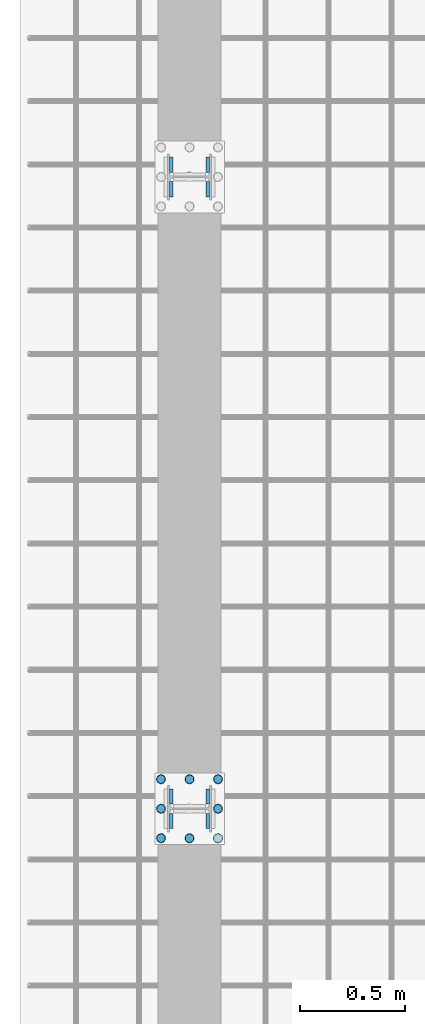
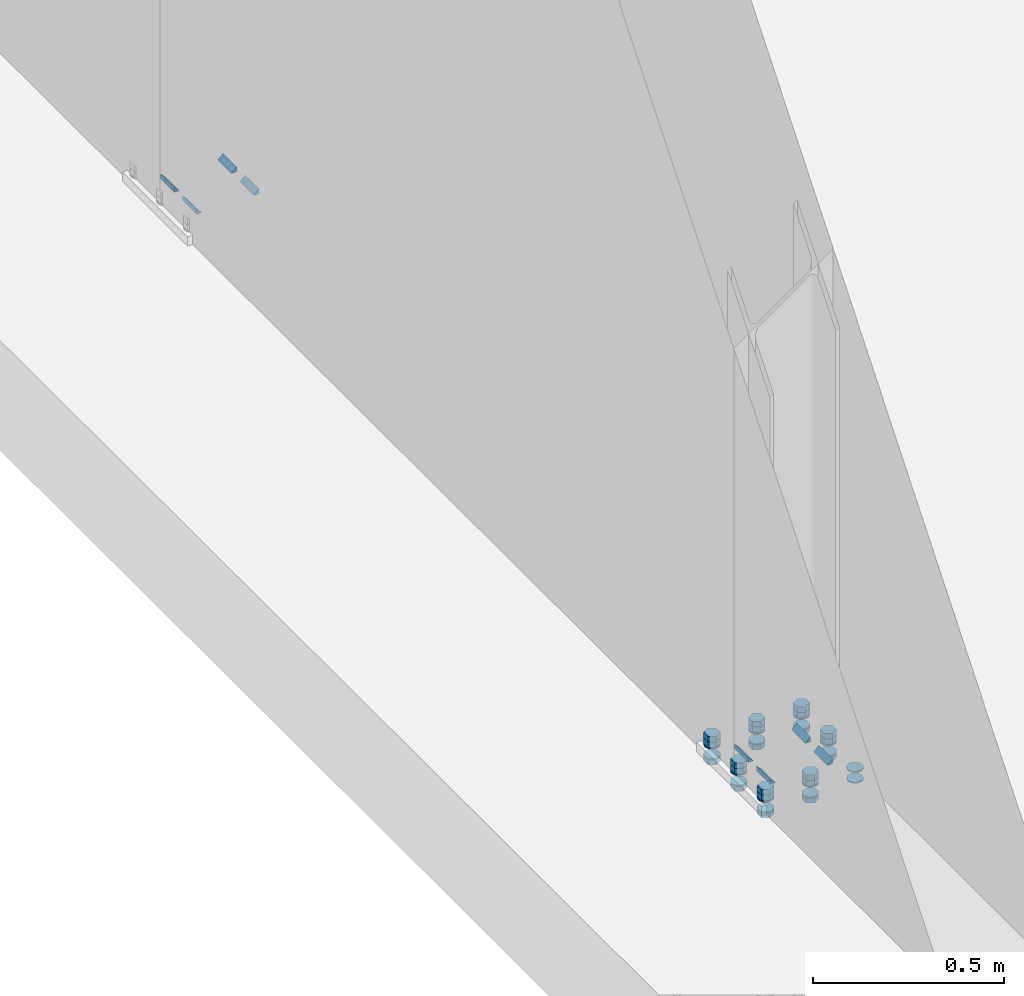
# One storey, part 14 of 29: 37 mechanical fasteners, 14 fasteners.
"""IFC4 building model written with IfcOpenShell, lengths in metres."""

from ifc_helpers import new_model, si_unit, frame, origin_with_axes, place, context, project, spatial, polyline, outline, extrude, type_object, element, save


model = new_model("IFC4")

# Units and contexts
model_context = context("Model", 3, precision=1e-05, world=origin_with_axes())
ifc_project = project(units=[si_unit("LENGTHUNIT", "METRE"), si_unit("AREAUNIT", "SQUARE_METRE"), si_unit("VOLUMEUNIT", "CUBIC_METRE"), si_unit("MASSUNIT", "GRAM", prefix="KILO"), si_unit("TIMEUNIT", "SECOND"), si_unit("PLANEANGLEUNIT", "RADIAN"), si_unit("SOLIDANGLEUNIT", "STERADIAN"), si_unit("THERMODYNAMICTEMPERATUREUNIT", "DEGREE_CELSIUS")], contexts=[model_context])

# Site, building, storey
placement_1 = place(None, origin_with_axes())
site = spatial("IfcSite", under=ifc_project, at=placement_1, Name="Italia", CompositionType="ELEMENT")
building = spatial("IfcBuilding", under=site, at=placement_1, Name="Capannone", CompositionType="ELEMENT")
storey = spatial("IfcBuildingStorey", under=building, at=placement_1, Name="Storey 0", CompositionType="ELEMENT", Elevation=0.0)

# Fasteners
fastener_type_1 = type_object("IfcFastenerType", Name="Collegamenti 0001_0101 0002_0102 0003_0103 0004_0104 0005_0105 0006_0106 0007_0107 0008_0108 0009_0109 0010_0110 0011_0111 0012_0112", PredefinedType="WELD")
placement_2 = place(placement_1, origin_with_axes())
fastener_1_placement = place(placement_2, origin_with_axes())
element("IfcFastener", 1, at=fastener_1_placement, inside=storey, type_object=fastener_type_1, Name="Collegamenti 0001_0101 0002_0102 0003_0103 0004_0104 0005_0105 0006_0106 0007_0107 0008_0108 0009_0109 0010_0110 0011_0111 0012_0112", context=model_context, shape_type="SweptSolid", body=[
    extrude(outline(polyline([(0.0, 0.0), (0.0156882, 0.0161734), (0.0156882, 0.0), (0.0, 0.0)])), frame((-0.0783618, 3.02145, 0.02995), z_axis=(0.0, 1.0, 0.0), x_axis=(-1.0, 0.0, 0.0)), (0.0, 0.0, 1.0), 0.0725999),
])
fastener_type_2 = type_object("IfcFastenerType", Name="Collegamenti 0001_0101 0002_0102 0003_0103 0004_0104 0005_0105 0006_0106 0007_0107 0008_0108 0009_0109 0010_0110 0011_0111 0012_0112", PredefinedType="WELD")
fastener_2_placement = place(placement_2, origin_with_axes())
element("IfcFastener", 2, at=fastener_2_placement, inside=storey, type_object=fastener_type_2, Name="Collegamenti 0001_0101 0002_0102 0003_0103 0004_0104 0005_0105 0006_0106 0007_0107 0008_0108 0009_0109 0010_0110 0011_0111 0012_0112", context=model_context, shape_type="SweptSolid", body=[
    extrude(outline(polyline([(0.0, 0.0), (0.0156882, 0.0161734), (0.0156882, 0.0), (0.0, 0.0)])), frame((0.0783618, 3.09405, 0.02995), z_axis=(0.0, -1.0, 0.0), x_axis=(1.0, 0.0, 0.0)), (0.0, 0.0, 1.0), 0.0725999),
])
fastener_type_3 = type_object("IfcFastenerType", Name="Collegamenti 0001_0101 0002_0102 0003_0103 0004_0104 0005_0105 0006_0106 0007_0107 0008_0108 0009_0109 0010_0110 0011_0111 0012_0112", PredefinedType="WELD")
fastener_3_placement = place(placement_2, origin_with_axes())
element("IfcFastener", 3, at=fastener_3_placement, inside=storey, type_object=fastener_type_3, Name="Collegamenti 0001_0101 0002_0102 0003_0103 0004_0104 0005_0105 0006_0106 0007_0107 0008_0108 0009_0109 0010_0110 0011_0111 0012_0112", context=model_context, shape_type="SweptSolid", body=[
    extrude(outline(polyline([(0.0, 0.0), (0.0156882, 0.0161734), (0.0156882, 0.0), (0.0, 0.0)])), frame((0.0783618, 2.97855, 0.02995), z_axis=(0.0, -1.0, 0.0), x_axis=(1.0, 0.0, 0.0)), (0.0, 0.0, 1.0), 0.0725999),
])
fastener_type_4 = type_object("IfcFastenerType", Name="Collegamenti 0001_0101 0002_0102 0003_0103 0004_0104 0005_0105 0006_0106 0007_0107 0008_0108 0009_0109 0010_0110 0011_0111 0012_0112", PredefinedType="WELD")
fastener_4_placement = place(placement_2, origin_with_axes())
element("IfcFastener", 4, at=fastener_4_placement, inside=storey, type_object=fastener_type_4, Name="Collegamenti 0001_0101 0002_0102 0003_0103 0004_0104 0005_0105 0006_0106 0007_0107 0008_0108 0009_0109 0010_0110 0011_0111 0012_0112", context=model_context, shape_type="SweptSolid", body=[
    extrude(outline(polyline([(0.0, 0.0), (0.0156882, 0.0161734), (0.0156882, 0.0), (0.0, 0.0)])), frame((-0.0783618, 2.90595, 0.02995), z_axis=(0.0, 1.0, 0.0), x_axis=(-1.0, 0.0, 0.0)), (0.0, 0.0, 1.0), 0.0725999),
])
fastener_type_5 = type_object("IfcFastenerType", Name="Collegamenti 0001_0101 0002_0102 0003_0103 0004_0104 0005_0105 0006_0106 0007_0107 0008_0108 0009_0109 0010_0110 0011_0111 0012_0112", PredefinedType="WELD")
fastener_5_placement = place(placement_2, origin_with_axes())
element("IfcFastener", 5, at=fastener_5_placement, inside=storey, type_object=fastener_type_5, Name="Collegamenti 0001_0101 0002_0102 0003_0103 0004_0104 0005_0105 0006_0106 0007_0107 0008_0108 0009_0109 0010_0110 0011_0111 0012_0112", context=model_context, shape_type="SweptSolid", body=[
    extrude(outline(polyline([(0.0, 0.0), (0.0156882, 0.0161734), (0.0156882, 0.0), (0.0, 0.0)])), frame((-0.0783618, 3.02145, 0.02995), z_axis=(0.0, 1.0, 0.0), x_axis=(-1.0, 0.0, 0.0)), (0.0, 0.0, 1.0), 0.0725999),
])
fastener_type_6 = type_object("IfcFastenerType", Name="Collegamenti 0001_0101 0002_0102 0003_0103 0004_0104 0005_0105 0006_0106 0007_0107 0008_0108 0009_0109 0010_0110 0011_0111 0012_0112", PredefinedType="WELD")
fastener_6_placement = place(placement_2, origin_with_axes())
element("IfcFastener", 6, at=fastener_6_placement, inside=storey, type_object=fastener_type_6, Name="Collegamenti 0001_0101 0002_0102 0003_0103 0004_0104 0005_0105 0006_0106 0007_0107 0008_0108 0009_0109 0010_0110 0011_0111 0012_0112", context=model_context, shape_type="SweptSolid", body=[
    extrude(outline(polyline([(0.0, 0.0), (0.0156882, 0.0161734), (0.0156882, 0.0), (0.0, 0.0)])), frame((0.0783618, 3.09405, 0.02995), z_axis=(0.0, -1.0, 0.0), x_axis=(1.0, 0.0, 0.0)), (0.0, 0.0, 1.0), 0.0725999),
])
fastener_type_7 = type_object("IfcFastenerType", Name="Collegamenti 0001_0101 0002_0102 0003_0103 0004_0104 0005_0105 0006_0106 0007_0107 0008_0108 0009_0109 0010_0110 0011_0111 0012_0112", PredefinedType="WELD")
fastener_7_placement = place(placement_2, origin_with_axes())
element("IfcFastener", 7, at=fastener_7_placement, inside=storey, type_object=fastener_type_7, Name="Collegamenti 0001_0101 0002_0102 0003_0103 0004_0104 0005_0105 0006_0106 0007_0107 0008_0108 0009_0109 0010_0110 0011_0111 0012_0112", context=model_context, shape_type="SweptSolid", body=[
    extrude(outline(polyline([(0.0, 0.0), (0.0156882, 0.0161734), (0.0156882, 0.0), (0.0, 0.0)])), frame((0.0783618, 2.97855, 0.02995), z_axis=(0.0, -1.0, 0.0), x_axis=(1.0, 0.0, 0.0)), (0.0, 0.0, 1.0), 0.0725999),
])
fastener_type_8 = type_object("IfcFastenerType", Name="Collegamenti 0001_0101 0002_0102 0003_0103 0004_0104 0005_0105 0006_0106 0007_0107 0008_0108 0009_0109 0010_0110 0011_0111 0012_0112", PredefinedType="WELD")
fastener_8_placement = place(placement_2, origin_with_axes())
element("IfcFastener", 8, at=fastener_8_placement, inside=storey, type_object=fastener_type_8, Name="Collegamenti 0001_0101 0002_0102 0003_0103 0004_0104 0005_0105 0006_0106 0007_0107 0008_0108 0009_0109 0010_0110 0011_0111 0012_0112", context=model_context, shape_type="SweptSolid", body=[
    extrude(outline(polyline([(0.0, 0.0), (0.0156882, 0.0161734), (0.0156882, 0.0), (0.0, 0.0)])), frame((-0.0783618, 2.90595, 0.02995), z_axis=(0.0, 1.0, 0.0), x_axis=(-1.0, 0.0, 0.0)), (0.0, 0.0, 1.0), 0.0725999),
])

# Mechanical fasteners
mechanical_fastener_type_1 = type_object("IfcMechanicalFastenerType", Name="Collegamenti 0001_0101 0002_0102 0003_0103 0004_0104 0005_0105 0006_0106 0007_0107 0008_0108 0009_0109 0010_0110 0011_0111 0012_0112", PredefinedType="BOLT")
mechanical_fastener_1_placement = place(placement_2, origin_with_axes())
element("IfcMechanicalFastener", 9, at=mechanical_fastener_1_placement, inside=storey, type_object=mechanical_fastener_type_1, Name="Collegamenti 0001_0101 0002_0102 0003_0103 0004_0104 0005_0105 0006_0106 0007_0107 0008_0108 0009_0109 0010_0110 0011_0111 0012_0112", NominalDiameter=0.044, context=model_context, shape_type="SweptSolid", body=[
    extrude(outline(polyline([(0.0, 0.0), (-0.000749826, -0.00569402), (-0.00294757, -0.011), (-0.00644374, -0.0155564), (-0.0110002, -0.0190526), (-0.0163062, -0.0212504), (-0.0220001, -0.022), (-0.027694, -0.0212504), (-0.033, -0.0190526), (-0.0375564, -0.0155564), (-0.0410526, -0.011), (-0.0432506, -0.00569402), (-0.0440001, 0.0), (-0.0432503, 0.00569402), (-0.0410526, 0.011), (-0.0375564, 0.0155564), (-0.033, 0.0190526), (-0.027694, 0.0212504), (-0.0220001, 0.022), (-0.0163062, 0.0212504), (-0.0110002, 0.0190526), (-0.00644374, 0.0155563), (-0.00294757, 0.011), (-0.000749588, 0.00569402), (0.0, 0.0)])), frame((0.135, 2.882, 0.03), z_axis=(0.0, 0.0, 1.0), x_axis=(0.0, 1.0, 0.0)), (0.0, 0.0, 1.0), 0.004),
])
mechanical_fastener_type_2 = type_object("IfcMechanicalFastenerType", Name="Collegamenti 0001_0101 0002_0102 0003_0103 0004_0104 0005_0105 0006_0106 0007_0107 0008_0108 0009_0109 0010_0110 0011_0111 0012_0112", PredefinedType="BOLT")
mechanical_fastener_2_placement = place(placement_2, origin_with_axes())
element("IfcMechanicalFastener", 10, at=mechanical_fastener_2_placement, inside=storey, type_object=mechanical_fastener_type_2, Name="Collegamenti 0001_0101 0002_0102 0003_0103 0004_0104 0005_0105 0006_0106 0007_0107 0008_0108 0009_0109 0010_0110 0011_0111 0012_0112", NominalDiameter=0.044, context=model_context, shape_type="SweptSolid", body=[
    extrude(outline(polyline([(0.0, 0.0), (-0.000749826, -0.00569402), (-0.00294757, -0.011), (-0.00644374, -0.0155564), (-0.0110002, -0.0190526), (-0.0163062, -0.0212504), (-0.0220001, -0.022), (-0.027694, -0.0212504), (-0.033, -0.0190526), (-0.0375564, -0.0155564), (-0.0410526, -0.011), (-0.0432506, -0.00569402), (-0.0440001, 0.0), (-0.0432503, 0.00569402), (-0.0410526, 0.011), (-0.0375564, 0.0155564), (-0.033, 0.0190526), (-0.027694, 0.0212504), (-0.0220001, 0.022), (-0.0163062, 0.0212504), (-0.0110002, 0.0190526), (-0.00644374, 0.0155563), (-0.00294757, 0.011), (-0.000749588, 0.00569402), (0.0, 0.0)])), frame((0.135, 2.882, -0.004), z_axis=(0.0, 0.0, 1.0), x_axis=(0.0, 1.0, 0.0)), (0.0, 0.0, 1.0), 0.004),
])
mechanical_fastener_type_3 = type_object("IfcMechanicalFastenerType", Name="Collegamenti 0001_0101 0002_0102 0003_0103 0004_0104 0005_0105 0006_0106 0007_0107 0008_0108 0009_0109 0010_0110 0011_0111 0012_0112", PredefinedType="BOLT")
mechanical_fastener_3_placement = place(placement_2, origin_with_axes())
element("IfcMechanicalFastener", 11, at=mechanical_fastener_3_placement, inside=storey, type_object=mechanical_fastener_type_3, Name="Collegamenti 0001_0101 0002_0102 0003_0103 0004_0104 0005_0105 0006_0106 0007_0107 0008_0108 0009_0109 0010_0110 0011_0111 0012_0112", NominalDiameter=0.0219998, context=model_context, shape_type="SweptSolid", body=[
    extrude(outline(polyline([(0.0, 0.0), (-0.0219998, 0.0), (-0.033, 0.0190526), (-0.0219998, 0.0381051), (0.0, 0.0381051), (0.0110002, 0.0190526), (0.0, 0.0)])), frame((0.154053, 3.011, 0.034), z_axis=(0.0, 0.0, 1.0), x_axis=(0.0, 1.0, 0.0)), (0.0, 0.0, 1.0), 0.0176),
])
mechanical_fastener_type_4 = type_object("IfcMechanicalFastenerType", Name="Collegamenti 0001_0101 0002_0102 0003_0103 0004_0104 0005_0105 0006_0106 0007_0107 0008_0108 0009_0109 0010_0110 0011_0111 0012_0112", PredefinedType="BOLT")
mechanical_fastener_4_placement = place(placement_2, origin_with_axes())
element("IfcMechanicalFastener", 12, at=mechanical_fastener_4_placement, inside=storey, type_object=mechanical_fastener_type_4, Name="Collegamenti 0001_0101 0002_0102 0003_0103 0004_0104 0005_0105 0006_0106 0007_0107 0008_0108 0009_0109 0010_0110 0011_0111 0012_0112", NominalDiameter=0.0219998, context=model_context, shape_type="SweptSolid", body=[
    extrude(outline(polyline([(0.0, 0.0), (-0.0219998, 0.0), (-0.033, 0.0190526), (-0.0219998, 0.0381051), (0.0, 0.0381051), (0.0110002, 0.0190526), (0.0, 0.0)])), frame((0.154053, 3.011, 0.0516), z_axis=(0.0, 0.0, 1.0), x_axis=(0.0, 1.0, 0.0)), (0.0, 0.0, 1.0), 0.0176),
])
mechanical_fastener_type_5 = type_object("IfcMechanicalFastenerType", Name="Collegamenti 0001_0101 0002_0102 0003_0103 0004_0104 0005_0105 0006_0106 0007_0107 0008_0108 0009_0109 0010_0110 0011_0111 0012_0112", PredefinedType="BOLT")
mechanical_fastener_5_placement = place(placement_2, origin_with_axes())
element("IfcMechanicalFastener", 13, at=mechanical_fastener_5_placement, inside=storey, type_object=mechanical_fastener_type_5, Name="Collegamenti 0001_0101 0002_0102 0003_0103 0004_0104 0005_0105 0006_0106 0007_0107 0008_0108 0009_0109 0010_0110 0011_0111 0012_0112", NominalDiameter=0.0219998, context=model_context, shape_type="SweptSolid", body=[
    extrude(outline(polyline([(0.0, 0.0), (-0.0219998, 0.0), (-0.033, 0.0190526), (-0.0219998, 0.0381051), (0.0, 0.0381051), (0.0110002, 0.0190526), (0.0, 0.0)])), frame((0.154053, 3.011, -0.0216), z_axis=(0.0, 0.0, 1.0), x_axis=(0.0, 1.0, 0.0)), (0.0, 0.0, 1.0), 0.0176),
])
mechanical_fastener_type_6 = type_object("IfcMechanicalFastenerType", Name="Collegamenti 0001_0101 0002_0102 0003_0103 0004_0104 0005_0105 0006_0106 0007_0107 0008_0108 0009_0109 0010_0110 0011_0111 0012_0112", PredefinedType="BOLT")
mechanical_fastener_6_placement = place(placement_2, origin_with_axes())
element("IfcMechanicalFastener", 14, at=mechanical_fastener_6_placement, inside=storey, type_object=mechanical_fastener_type_6, Name="Collegamenti 0001_0101 0002_0102 0003_0103 0004_0104 0005_0105 0006_0106 0007_0107 0008_0108 0009_0109 0010_0110 0011_0111 0012_0112", NominalDiameter=0.044, context=model_context, shape_type="SweptSolid", body=[
    extrude(outline(polyline([(0.0, 0.0), (-0.000749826, -0.00569402), (-0.00294757, -0.011), (-0.00644374, -0.0155564), (-0.0110002, -0.0190526), (-0.0163062, -0.0212504), (-0.0220001, -0.022), (-0.027694, -0.0212504), (-0.033, -0.0190526), (-0.0375564, -0.0155564), (-0.0410526, -0.011), (-0.0432506, -0.00569402), (-0.0440001, 0.0), (-0.0432503, 0.00569402), (-0.0410526, 0.011), (-0.0375564, 0.0155564), (-0.033, 0.0190526), (-0.027694, 0.0212504), (-0.0220001, 0.022), (-0.0163062, 0.0212504), (-0.0110002, 0.0190526), (-0.00644374, 0.0155563), (-0.00294757, 0.011), (-0.000749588, 0.00569402), (0.0, 0.0)])), frame((0.135, 3.022, 0.03), z_axis=(0.0, 0.0, 1.0), x_axis=(0.0, 1.0, 0.0)), (0.0, 0.0, 1.0), 0.004),
])
mechanical_fastener_type_7 = type_object("IfcMechanicalFastenerType", Name="Collegamenti 0001_0101 0002_0102 0003_0103 0004_0104 0005_0105 0006_0106 0007_0107 0008_0108 0009_0109 0010_0110 0011_0111 0012_0112", PredefinedType="BOLT")
mechanical_fastener_7_placement = place(placement_2, origin_with_axes())
element("IfcMechanicalFastener", 15, at=mechanical_fastener_7_placement, inside=storey, type_object=mechanical_fastener_type_7, Name="Collegamenti 0001_0101 0002_0102 0003_0103 0004_0104 0005_0105 0006_0106 0007_0107 0008_0108 0009_0109 0010_0110 0011_0111 0012_0112", NominalDiameter=0.044, context=model_context, shape_type="SweptSolid", body=[
    extrude(outline(polyline([(0.0, 0.0), (-0.000749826, -0.00569402), (-0.00294757, -0.011), (-0.00644374, -0.0155564), (-0.0110002, -0.0190526), (-0.0163062, -0.0212504), (-0.0220001, -0.022), (-0.027694, -0.0212504), (-0.033, -0.0190526), (-0.0375564, -0.0155564), (-0.0410526, -0.011), (-0.0432506, -0.00569402), (-0.0440001, 0.0), (-0.0432503, 0.00569402), (-0.0410526, 0.011), (-0.0375564, 0.0155564), (-0.033, 0.0190526), (-0.027694, 0.0212504), (-0.0220001, 0.022), (-0.0163062, 0.0212504), (-0.0110002, 0.0190526), (-0.00644374, 0.0155563), (-0.00294757, 0.011), (-0.000749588, 0.00569402), (0.0, 0.0)])), frame((0.135, 3.022, -0.004), z_axis=(0.0, 0.0, 1.0), x_axis=(0.0, 1.0, 0.0)), (0.0, 0.0, 1.0), 0.004),
])
mechanical_fastener_type_8 = type_object("IfcMechanicalFastenerType", Name="Collegamenti 0001_0101 0002_0102 0003_0103 0004_0104 0005_0105 0006_0106 0007_0107 0008_0108 0009_0109 0010_0110 0011_0111 0012_0112", PredefinedType="BOLT")
mechanical_fastener_8_placement = place(placement_2, origin_with_axes())
element("IfcMechanicalFastener", 16, at=mechanical_fastener_8_placement, inside=storey, type_object=mechanical_fastener_type_8, Name="Collegamenti 0001_0101 0002_0102 0003_0103 0004_0104 0005_0105 0006_0106 0007_0107 0008_0108 0009_0109 0010_0110 0011_0111 0012_0112", NominalDiameter=0.022, context=model_context, shape_type="SweptSolid", body=[
    extrude(outline(polyline([(0.0, 0.0), (-0.0220001, 0.0), (-0.033, 0.0190526), (-0.0220001, 0.0381051), (0.0, 0.0381051), (0.0109999, 0.0190526), (0.0, 0.0)])), frame((0.154053, 3.151, 0.034), z_axis=(0.0, 0.0, 1.0), x_axis=(0.0, 1.0, 0.0)), (0.0, 0.0, 1.0), 0.0176),
])
mechanical_fastener_type_9 = type_object("IfcMechanicalFastenerType", Name="Collegamenti 0001_0101 0002_0102 0003_0103 0004_0104 0005_0105 0006_0106 0007_0107 0008_0108 0009_0109 0010_0110 0011_0111 0012_0112", PredefinedType="BOLT")
mechanical_fastener_9_placement = place(placement_2, origin_with_axes())
element("IfcMechanicalFastener", 17, at=mechanical_fastener_9_placement, inside=storey, type_object=mechanical_fastener_type_9, Name="Collegamenti 0001_0101 0002_0102 0003_0103 0004_0104 0005_0105 0006_0106 0007_0107 0008_0108 0009_0109 0010_0110 0011_0111 0012_0112", NominalDiameter=0.022, context=model_context, shape_type="SweptSolid", body=[
    extrude(outline(polyline([(0.0, 0.0), (-0.0220001, 0.0), (-0.033, 0.0190526), (-0.0220001, 0.0381051), (0.0, 0.0381051), (0.0109999, 0.0190526), (0.0, 0.0)])), frame((0.154053, 3.151, 0.0516), z_axis=(0.0, 0.0, 1.0), x_axis=(0.0, 1.0, 0.0)), (0.0, 0.0, 1.0), 0.0176),
])
mechanical_fastener_type_10 = type_object("IfcMechanicalFastenerType", Name="Collegamenti 0001_0101 0002_0102 0003_0103 0004_0104 0005_0105 0006_0106 0007_0107 0008_0108 0009_0109 0010_0110 0011_0111 0012_0112", PredefinedType="BOLT")
mechanical_fastener_10_placement = place(placement_2, origin_with_axes())
element("IfcMechanicalFastener", 18, at=mechanical_fastener_10_placement, inside=storey, type_object=mechanical_fastener_type_10, Name="Collegamenti 0001_0101 0002_0102 0003_0103 0004_0104 0005_0105 0006_0106 0007_0107 0008_0108 0009_0109 0010_0110 0011_0111 0012_0112", NominalDiameter=0.022, context=model_context, shape_type="SweptSolid", body=[
    extrude(outline(polyline([(0.0, 0.0), (-0.0220001, 0.0), (-0.033, 0.0190526), (-0.0220001, 0.0381051), (0.0, 0.0381051), (0.0109999, 0.0190526), (0.0, 0.0)])), frame((0.154053, 3.151, -0.0216), z_axis=(0.0, 0.0, 1.0), x_axis=(0.0, 1.0, 0.0)), (0.0, 0.0, 1.0), 0.0176),
])
mechanical_fastener_type_11 = type_object("IfcMechanicalFastenerType", Name="Collegamenti 0001_0101 0002_0102 0003_0103 0004_0104 0005_0105 0006_0106 0007_0107 0008_0108 0009_0109 0010_0110 0011_0111 0012_0112", PredefinedType="BOLT")
mechanical_fastener_11_placement = place(placement_2, origin_with_axes())
element("IfcMechanicalFastener", 19, at=mechanical_fastener_11_placement, inside=storey, type_object=mechanical_fastener_type_11, Name="Collegamenti 0001_0101 0002_0102 0003_0103 0004_0104 0005_0105 0006_0106 0007_0107 0008_0108 0009_0109 0010_0110 0011_0111 0012_0112", NominalDiameter=0.044, context=model_context, shape_type="SweptSolid", body=[
    extrude(outline(polyline([(0.0, 0.0), (-0.000749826, -0.00569402), (-0.00294757, -0.011), (-0.00644374, -0.0155564), (-0.0110002, -0.0190526), (-0.0163062, -0.0212504), (-0.0220001, -0.022), (-0.027694, -0.0212504), (-0.033, -0.0190526), (-0.0375564, -0.0155564), (-0.0410526, -0.011), (-0.0432506, -0.00569402), (-0.0440001, 0.0), (-0.0432503, 0.00569402), (-0.0410526, 0.011), (-0.0375564, 0.0155564), (-0.033, 0.0190526), (-0.027694, 0.0212504), (-0.0220001, 0.022), (-0.0163062, 0.0212504), (-0.0110002, 0.0190526), (-0.00644374, 0.0155563), (-0.00294757, 0.011), (-0.000749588, 0.00569402), (0.0, 0.0)])), frame((0.135, 3.162, 0.03), z_axis=(0.0, 0.0, 1.0), x_axis=(0.0, 1.0, 0.0)), (0.0, 0.0, 1.0), 0.004),
])
mechanical_fastener_type_12 = type_object("IfcMechanicalFastenerType", Name="Collegamenti 0001_0101 0002_0102 0003_0103 0004_0104 0005_0105 0006_0106 0007_0107 0008_0108 0009_0109 0010_0110 0011_0111 0012_0112", PredefinedType="BOLT")
mechanical_fastener_12_placement = place(placement_2, origin_with_axes())
element("IfcMechanicalFastener", 20, at=mechanical_fastener_12_placement, inside=storey, type_object=mechanical_fastener_type_12, Name="Collegamenti 0001_0101 0002_0102 0003_0103 0004_0104 0005_0105 0006_0106 0007_0107 0008_0108 0009_0109 0010_0110 0011_0111 0012_0112", NominalDiameter=0.044, context=model_context, shape_type="SweptSolid", body=[
    extrude(outline(polyline([(0.0, 0.0), (-0.000749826, -0.00569402), (-0.00294757, -0.011), (-0.00644374, -0.0155564), (-0.0110002, -0.0190526), (-0.0163062, -0.0212504), (-0.0220001, -0.022), (-0.027694, -0.0212504), (-0.033, -0.0190526), (-0.0375564, -0.0155564), (-0.0410526, -0.011), (-0.0432506, -0.00569402), (-0.0440001, 0.0), (-0.0432503, 0.00569402), (-0.0410526, 0.011), (-0.0375564, 0.0155564), (-0.033, 0.0190526), (-0.027694, 0.0212504), (-0.0220001, 0.022), (-0.0163062, 0.0212504), (-0.0110002, 0.0190526), (-0.00644374, 0.0155563), (-0.00294757, 0.011), (-0.000749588, 0.00569402), (0.0, 0.0)])), frame((0.135, 3.162, -0.004), z_axis=(0.0, 0.0, 1.0), x_axis=(0.0, 1.0, 0.0)), (0.0, 0.0, 1.0), 0.004),
])
mechanical_fastener_type_13 = type_object("IfcMechanicalFastenerType", Name="Collegamenti 0001_0101 0002_0102 0003_0103 0004_0104 0005_0105 0006_0106 0007_0107 0008_0108 0009_0109 0010_0110 0011_0111 0012_0112", PredefinedType="BOLT")
mechanical_fastener_13_placement = place(placement_2, origin_with_axes())
element("IfcMechanicalFastener", 21, at=mechanical_fastener_13_placement, inside=storey, type_object=mechanical_fastener_type_13, Name="Collegamenti 0001_0101 0002_0102 0003_0103 0004_0104 0005_0105 0006_0106 0007_0107 0008_0108 0009_0109 0010_0110 0011_0111 0012_0112", NominalDiameter=0.022, context=model_context, shape_type="SweptSolid", body=[
    extrude(outline(polyline([(0.0, 0.0), (-0.0220001, 0.0), (-0.033, 0.0190526), (-0.0220001, 0.0381051), (0.0, 0.0381051), (0.0109999, 0.0190526), (0.0, 0.0)])), frame((0.0190526, 2.871, 0.034), z_axis=(0.0, 0.0, 1.0), x_axis=(0.0, 1.0, 0.0)), (0.0, 0.0, 1.0), 0.0176),
])
mechanical_fastener_type_14 = type_object("IfcMechanicalFastenerType", Name="Collegamenti 0001_0101 0002_0102 0003_0103 0004_0104 0005_0105 0006_0106 0007_0107 0008_0108 0009_0109 0010_0110 0011_0111 0012_0112", PredefinedType="BOLT")
mechanical_fastener_14_placement = place(placement_2, origin_with_axes())
element("IfcMechanicalFastener", 22, at=mechanical_fastener_14_placement, inside=storey, type_object=mechanical_fastener_type_14, Name="Collegamenti 0001_0101 0002_0102 0003_0103 0004_0104 0005_0105 0006_0106 0007_0107 0008_0108 0009_0109 0010_0110 0011_0111 0012_0112", NominalDiameter=0.022, context=model_context, shape_type="SweptSolid", body=[
    extrude(outline(polyline([(0.0, 0.0), (-0.0220001, 0.0), (-0.033, 0.0190526), (-0.0220001, 0.0381051), (0.0, 0.0381051), (0.0109999, 0.0190526), (0.0, 0.0)])), frame((0.0190526, 2.871, 0.0516), z_axis=(0.0, 0.0, 1.0), x_axis=(0.0, 1.0, 0.0)), (0.0, 0.0, 1.0), 0.0176),
])
mechanical_fastener_type_15 = type_object("IfcMechanicalFastenerType", Name="Collegamenti 0001_0101 0002_0102 0003_0103 0004_0104 0005_0105 0006_0106 0007_0107 0008_0108 0009_0109 0010_0110 0011_0111 0012_0112", PredefinedType="BOLT")
mechanical_fastener_15_placement = place(placement_2, origin_with_axes())
element("IfcMechanicalFastener", 23, at=mechanical_fastener_15_placement, inside=storey, type_object=mechanical_fastener_type_15, Name="Collegamenti 0001_0101 0002_0102 0003_0103 0004_0104 0005_0105 0006_0106 0007_0107 0008_0108 0009_0109 0010_0110 0011_0111 0012_0112", NominalDiameter=0.022, context=model_context, shape_type="SweptSolid", body=[
    extrude(outline(polyline([(0.0, 0.0), (-0.0220001, 0.0), (-0.033, 0.0190526), (-0.0220001, 0.0381051), (0.0, 0.0381051), (0.0109999, 0.0190526), (0.0, 0.0)])), frame((0.0190526, 2.871, -0.0216), z_axis=(0.0, 0.0, 1.0), x_axis=(0.0, 1.0, 0.0)), (0.0, 0.0, 1.0), 0.0176),
])
mechanical_fastener_type_16 = type_object("IfcMechanicalFastenerType", Name="Collegamenti 0001_0101 0002_0102 0003_0103 0004_0104 0005_0105 0006_0106 0007_0107 0008_0108 0009_0109 0010_0110 0011_0111 0012_0112", PredefinedType="BOLT")
mechanical_fastener_16_placement = place(placement_2, origin_with_axes())
element("IfcMechanicalFastener", 24, at=mechanical_fastener_16_placement, inside=storey, type_object=mechanical_fastener_type_16, Name="Collegamenti 0001_0101 0002_0102 0003_0103 0004_0104 0005_0105 0006_0106 0007_0107 0008_0108 0009_0109 0010_0110 0011_0111 0012_0112", NominalDiameter=0.044, context=model_context, shape_type="SweptSolid", body=[
    extrude(outline(polyline([(0.0, 0.0), (-0.000749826, -0.00569402), (-0.00294757, -0.011), (-0.00644374, -0.0155563), (-0.0110002, -0.0190526), (-0.0163062, -0.0212504), (-0.0220001, -0.022), (-0.027694, -0.0212504), (-0.033, -0.0190526), (-0.0375564, -0.0155563), (-0.0410526, -0.011), (-0.0432506, -0.00569402), (-0.0440001, 0.0), (-0.0432503, 0.00569402), (-0.0410526, 0.011), (-0.0375564, 0.0155564), (-0.033, 0.0190526), (-0.027694, 0.0212504), (-0.0220001, 0.022), (-0.0163062, 0.0212504), (-0.0110002, 0.0190526), (-0.00644374, 0.0155563), (-0.00294757, 0.011), (-0.000749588, 0.00569401), (0.0, 0.0)])), frame((0.0, 2.882, 0.03), z_axis=(0.0, 0.0, 1.0), x_axis=(0.0, 1.0, 0.0)), (0.0, 0.0, 1.0), 0.004),
])
mechanical_fastener_type_17 = type_object("IfcMechanicalFastenerType", Name="Collegamenti 0001_0101 0002_0102 0003_0103 0004_0104 0005_0105 0006_0106 0007_0107 0008_0108 0009_0109 0010_0110 0011_0111 0012_0112", PredefinedType="BOLT")
mechanical_fastener_17_placement = place(placement_2, origin_with_axes())
element("IfcMechanicalFastener", 25, at=mechanical_fastener_17_placement, inside=storey, type_object=mechanical_fastener_type_17, Name="Collegamenti 0001_0101 0002_0102 0003_0103 0004_0104 0005_0105 0006_0106 0007_0107 0008_0108 0009_0109 0010_0110 0011_0111 0012_0112", NominalDiameter=0.044, context=model_context, shape_type="SweptSolid", body=[
    extrude(outline(polyline([(0.0, 0.0), (-0.000749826, -0.00569402), (-0.00294757, -0.011), (-0.00644374, -0.0155563), (-0.0110002, -0.0190526), (-0.0163062, -0.0212504), (-0.0220001, -0.022), (-0.027694, -0.0212504), (-0.033, -0.0190526), (-0.0375564, -0.0155563), (-0.0410526, -0.011), (-0.0432506, -0.00569402), (-0.0440001, 0.0), (-0.0432503, 0.00569402), (-0.0410526, 0.011), (-0.0375564, 0.0155564), (-0.033, 0.0190526), (-0.027694, 0.0212504), (-0.0220001, 0.022), (-0.0163062, 0.0212504), (-0.0110002, 0.0190526), (-0.00644374, 0.0155563), (-0.00294757, 0.011), (-0.000749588, 0.00569401), (0.0, 0.0)])), frame((0.0, 2.882, -0.004), z_axis=(0.0, 0.0, 1.0), x_axis=(0.0, 1.0, 0.0)), (0.0, 0.0, 1.0), 0.004),
])
mechanical_fastener_type_18 = type_object("IfcMechanicalFastenerType", Name="Collegamenti 0001_0101 0002_0102 0003_0103 0004_0104 0005_0105 0006_0106 0007_0107 0008_0108 0009_0109 0010_0110 0011_0111 0012_0112", PredefinedType="BOLT")
mechanical_fastener_18_placement = place(placement_2, origin_with_axes())
element("IfcMechanicalFastener", 26, at=mechanical_fastener_18_placement, inside=storey, type_object=mechanical_fastener_type_18, Name="Collegamenti 0001_0101 0002_0102 0003_0103 0004_0104 0005_0105 0006_0106 0007_0107 0008_0108 0009_0109 0010_0110 0011_0111 0012_0112", NominalDiameter=0.022, context=model_context, shape_type="SweptSolid", body=[
    extrude(outline(polyline([(0.0, 0.0), (-0.0220001, 0.0), (-0.033, 0.0190526), (-0.0220001, 0.0381051), (0.0, 0.0381051), (0.0109999, 0.0190526), (0.0, 0.0)])), frame((0.0190526, 3.151, 0.034), z_axis=(0.0, 0.0, 1.0), x_axis=(0.0, 1.0, 0.0)), (0.0, 0.0, 1.0), 0.0176),
])
mechanical_fastener_type_19 = type_object("IfcMechanicalFastenerType", Name="Collegamenti 0001_0101 0002_0102 0003_0103 0004_0104 0005_0105 0006_0106 0007_0107 0008_0108 0009_0109 0010_0110 0011_0111 0012_0112", PredefinedType="BOLT")
mechanical_fastener_19_placement = place(placement_2, origin_with_axes())
element("IfcMechanicalFastener", 27, at=mechanical_fastener_19_placement, inside=storey, type_object=mechanical_fastener_type_19, Name="Collegamenti 0001_0101 0002_0102 0003_0103 0004_0104 0005_0105 0006_0106 0007_0107 0008_0108 0009_0109 0010_0110 0011_0111 0012_0112", NominalDiameter=0.022, context=model_context, shape_type="SweptSolid", body=[
    extrude(outline(polyline([(0.0, 0.0), (-0.0220001, 0.0), (-0.033, 0.0190526), (-0.0220001, 0.0381051), (0.0, 0.0381051), (0.0109999, 0.0190526), (0.0, 0.0)])), frame((0.0190526, 3.151, 0.0516), z_axis=(0.0, 0.0, 1.0), x_axis=(0.0, 1.0, 0.0)), (0.0, 0.0, 1.0), 0.0176),
])
mechanical_fastener_type_20 = type_object("IfcMechanicalFastenerType", Name="Collegamenti 0001_0101 0002_0102 0003_0103 0004_0104 0005_0105 0006_0106 0007_0107 0008_0108 0009_0109 0010_0110 0011_0111 0012_0112", PredefinedType="BOLT")
mechanical_fastener_20_placement = place(placement_2, origin_with_axes())
element("IfcMechanicalFastener", 28, at=mechanical_fastener_20_placement, inside=storey, type_object=mechanical_fastener_type_20, Name="Collegamenti 0001_0101 0002_0102 0003_0103 0004_0104 0005_0105 0006_0106 0007_0107 0008_0108 0009_0109 0010_0110 0011_0111 0012_0112", NominalDiameter=0.022, context=model_context, shape_type="SweptSolid", body=[
    extrude(outline(polyline([(0.0, 0.0), (-0.0220001, 0.0), (-0.033, 0.0190526), (-0.0220001, 0.0381051), (0.0, 0.0381051), (0.0109999, 0.0190526), (0.0, 0.0)])), frame((0.0190526, 3.151, -0.0216), z_axis=(0.0, 0.0, 1.0), x_axis=(0.0, 1.0, 0.0)), (0.0, 0.0, 1.0), 0.0176),
])
mechanical_fastener_type_21 = type_object("IfcMechanicalFastenerType", Name="Collegamenti 0001_0101 0002_0102 0003_0103 0004_0104 0005_0105 0006_0106 0007_0107 0008_0108 0009_0109 0010_0110 0011_0111 0012_0112", PredefinedType="BOLT")
mechanical_fastener_21_placement = place(placement_2, origin_with_axes())
element("IfcMechanicalFastener", 29, at=mechanical_fastener_21_placement, inside=storey, type_object=mechanical_fastener_type_21, Name="Collegamenti 0001_0101 0002_0102 0003_0103 0004_0104 0005_0105 0006_0106 0007_0107 0008_0108 0009_0109 0010_0110 0011_0111 0012_0112", NominalDiameter=0.044, context=model_context, shape_type="SweptSolid", body=[
    extrude(outline(polyline([(0.0, 0.0), (-0.000749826, -0.00569402), (-0.00294757, -0.011), (-0.00644374, -0.0155563), (-0.0110002, -0.0190526), (-0.0163062, -0.0212504), (-0.0220001, -0.022), (-0.027694, -0.0212504), (-0.033, -0.0190526), (-0.0375564, -0.0155563), (-0.0410526, -0.011), (-0.0432506, -0.00569402), (-0.0440001, 0.0), (-0.0432503, 0.00569402), (-0.0410526, 0.011), (-0.0375564, 0.0155564), (-0.033, 0.0190526), (-0.027694, 0.0212504), (-0.0220001, 0.022), (-0.0163062, 0.0212504), (-0.0110002, 0.0190526), (-0.00644374, 0.0155563), (-0.00294757, 0.011), (-0.000749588, 0.00569401), (0.0, 0.0)])), frame((0.0, 3.162, 0.03), z_axis=(0.0, 0.0, 1.0), x_axis=(0.0, 1.0, 0.0)), (0.0, 0.0, 1.0), 0.004),
])
mechanical_fastener_type_22 = type_object("IfcMechanicalFastenerType", Name="Collegamenti 0001_0101 0002_0102 0003_0103 0004_0104 0005_0105 0006_0106 0007_0107 0008_0108 0009_0109 0010_0110 0011_0111 0012_0112", PredefinedType="BOLT")
mechanical_fastener_22_placement = place(placement_2, origin_with_axes())
element("IfcMechanicalFastener", 30, at=mechanical_fastener_22_placement, inside=storey, type_object=mechanical_fastener_type_22, Name="Collegamenti 0001_0101 0002_0102 0003_0103 0004_0104 0005_0105 0006_0106 0007_0107 0008_0108 0009_0109 0010_0110 0011_0111 0012_0112", NominalDiameter=0.044, context=model_context, shape_type="SweptSolid", body=[
    extrude(outline(polyline([(0.0, 0.0), (-0.000749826, -0.00569402), (-0.00294757, -0.011), (-0.00644374, -0.0155563), (-0.0110002, -0.0190526), (-0.0163062, -0.0212504), (-0.0220001, -0.022), (-0.027694, -0.0212504), (-0.033, -0.0190526), (-0.0375564, -0.0155563), (-0.0410526, -0.011), (-0.0432506, -0.00569402), (-0.0440001, 0.0), (-0.0432503, 0.00569402), (-0.0410526, 0.011), (-0.0375564, 0.0155564), (-0.033, 0.0190526), (-0.027694, 0.0212504), (-0.0220001, 0.022), (-0.0163062, 0.0212504), (-0.0110002, 0.0190526), (-0.00644374, 0.0155563), (-0.00294757, 0.011), (-0.000749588, 0.00569401), (0.0, 0.0)])), frame((0.0, 3.162, -0.004), z_axis=(0.0, 0.0, 1.0), x_axis=(0.0, 1.0, 0.0)), (0.0, 0.0, 1.0), 0.004),
])
mechanical_fastener_type_23 = type_object("IfcMechanicalFastenerType", Name="Collegamenti 0001_0101 0002_0102 0003_0103 0004_0104 0005_0105 0006_0106 0007_0107 0008_0108 0009_0109 0010_0110 0011_0111 0012_0112", PredefinedType="BOLT")
mechanical_fastener_23_placement = place(placement_2, origin_with_axes())
element("IfcMechanicalFastener", 31, at=mechanical_fastener_23_placement, inside=storey, type_object=mechanical_fastener_type_23, Name="Collegamenti 0001_0101 0002_0102 0003_0103 0004_0104 0005_0105 0006_0106 0007_0107 0008_0108 0009_0109 0010_0110 0011_0111 0012_0112", NominalDiameter=0.022, context=model_context, shape_type="SweptSolid", body=[
    extrude(outline(polyline([(0.0, 0.0), (-0.0220001, 0.0), (-0.033, 0.0190526), (-0.0220001, 0.0381051), (0.0, 0.0381051), (0.0109999, 0.0190526), (0.0, 0.0)])), frame((-0.115947, 2.871, 0.034), z_axis=(0.0, 0.0, 1.0), x_axis=(0.0, 1.0, 0.0)), (0.0, 0.0, 1.0), 0.0176),
])
mechanical_fastener_type_24 = type_object("IfcMechanicalFastenerType", Name="Collegamenti 0001_0101 0002_0102 0003_0103 0004_0104 0005_0105 0006_0106 0007_0107 0008_0108 0009_0109 0010_0110 0011_0111 0012_0112", PredefinedType="BOLT")
mechanical_fastener_24_placement = place(placement_2, origin_with_axes())
element("IfcMechanicalFastener", 32, at=mechanical_fastener_24_placement, inside=storey, type_object=mechanical_fastener_type_24, Name="Collegamenti 0001_0101 0002_0102 0003_0103 0004_0104 0005_0105 0006_0106 0007_0107 0008_0108 0009_0109 0010_0110 0011_0111 0012_0112", NominalDiameter=0.022, context=model_context, shape_type="SweptSolid", body=[
    extrude(outline(polyline([(0.0, 0.0), (-0.0220001, 0.0), (-0.033, 0.0190526), (-0.0220001, 0.0381051), (0.0, 0.0381051), (0.0109999, 0.0190526), (0.0, 0.0)])), frame((-0.115947, 2.871, 0.0516), z_axis=(0.0, 0.0, 1.0), x_axis=(0.0, 1.0, 0.0)), (0.0, 0.0, 1.0), 0.0176),
])
mechanical_fastener_type_25 = type_object("IfcMechanicalFastenerType", Name="Collegamenti 0001_0101 0002_0102 0003_0103 0004_0104 0005_0105 0006_0106 0007_0107 0008_0108 0009_0109 0010_0110 0011_0111 0012_0112", PredefinedType="BOLT")
mechanical_fastener_25_placement = place(placement_2, origin_with_axes())
element("IfcMechanicalFastener", 33, at=mechanical_fastener_25_placement, inside=storey, type_object=mechanical_fastener_type_25, Name="Collegamenti 0001_0101 0002_0102 0003_0103 0004_0104 0005_0105 0006_0106 0007_0107 0008_0108 0009_0109 0010_0110 0011_0111 0012_0112", NominalDiameter=0.022, context=model_context, shape_type="SweptSolid", body=[
    extrude(outline(polyline([(0.0, 0.0), (-0.0220001, 0.0), (-0.033, 0.0190526), (-0.0220001, 0.0381051), (0.0, 0.0381051), (0.0109999, 0.0190526), (0.0, 0.0)])), frame((-0.115947, 2.871, -0.0216), z_axis=(0.0, 0.0, 1.0), x_axis=(0.0, 1.0, 0.0)), (0.0, 0.0, 1.0), 0.0176),
])
mechanical_fastener_type_26 = type_object("IfcMechanicalFastenerType", Name="Collegamenti 0001_0101 0002_0102 0003_0103 0004_0104 0005_0105 0006_0106 0007_0107 0008_0108 0009_0109 0010_0110 0011_0111 0012_0112", PredefinedType="BOLT")
mechanical_fastener_26_placement = place(placement_2, origin_with_axes())
element("IfcMechanicalFastener", 34, at=mechanical_fastener_26_placement, inside=storey, type_object=mechanical_fastener_type_26, Name="Collegamenti 0001_0101 0002_0102 0003_0103 0004_0104 0005_0105 0006_0106 0007_0107 0008_0108 0009_0109 0010_0110 0011_0111 0012_0112", NominalDiameter=0.044, context=model_context, shape_type="SweptSolid", body=[
    extrude(outline(polyline([(0.0, 0.0), (-0.000749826, -0.00569402), (-0.00294757, -0.011), (-0.00644374, -0.0155564), (-0.0110002, -0.0190526), (-0.0163062, -0.0212504), (-0.0220001, -0.022), (-0.027694, -0.0212504), (-0.033, -0.0190526), (-0.0375564, -0.0155564), (-0.0410526, -0.011), (-0.0432506, -0.00569402), (-0.0440001, 0.0), (-0.0432503, 0.00569402), (-0.0410526, 0.011), (-0.0375564, 0.0155564), (-0.033, 0.0190526), (-0.027694, 0.0212504), (-0.0220001, 0.022), (-0.0163062, 0.0212504), (-0.0110002, 0.0190526), (-0.00644374, 0.0155564), (-0.00294757, 0.011), (-0.000749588, 0.00569402), (0.0, 0.0)])), frame((-0.135, 2.882, 0.03), z_axis=(0.0, 0.0, 1.0), x_axis=(0.0, 1.0, 0.0)), (0.0, 0.0, 1.0), 0.004),
])
mechanical_fastener_type_27 = type_object("IfcMechanicalFastenerType", Name="Collegamenti 0001_0101 0002_0102 0003_0103 0004_0104 0005_0105 0006_0106 0007_0107 0008_0108 0009_0109 0010_0110 0011_0111 0012_0112", PredefinedType="BOLT")
mechanical_fastener_27_placement = place(placement_2, origin_with_axes())
element("IfcMechanicalFastener", 35, at=mechanical_fastener_27_placement, inside=storey, type_object=mechanical_fastener_type_27, Name="Collegamenti 0001_0101 0002_0102 0003_0103 0004_0104 0005_0105 0006_0106 0007_0107 0008_0108 0009_0109 0010_0110 0011_0111 0012_0112", NominalDiameter=0.044, context=model_context, shape_type="SweptSolid", body=[
    extrude(outline(polyline([(0.0, 0.0), (-0.000749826, -0.00569402), (-0.00294757, -0.011), (-0.00644374, -0.0155564), (-0.0110002, -0.0190526), (-0.0163062, -0.0212504), (-0.0220001, -0.022), (-0.027694, -0.0212504), (-0.033, -0.0190526), (-0.0375564, -0.0155564), (-0.0410526, -0.011), (-0.0432506, -0.00569402), (-0.0440001, 0.0), (-0.0432503, 0.00569402), (-0.0410526, 0.011), (-0.0375564, 0.0155564), (-0.033, 0.0190526), (-0.027694, 0.0212504), (-0.0220001, 0.022), (-0.0163062, 0.0212504), (-0.0110002, 0.0190526), (-0.00644374, 0.0155564), (-0.00294757, 0.011), (-0.000749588, 0.00569402), (0.0, 0.0)])), frame((-0.135, 2.882, -0.004), z_axis=(0.0, 0.0, 1.0), x_axis=(0.0, 1.0, 0.0)), (0.0, 0.0, 1.0), 0.004),
])
mechanical_fastener_type_28 = type_object("IfcMechanicalFastenerType", Name="Collegamenti 0001_0101 0002_0102 0003_0103 0004_0104 0005_0105 0006_0106 0007_0107 0008_0108 0009_0109 0010_0110 0011_0111 0012_0112", PredefinedType="BOLT")
mechanical_fastener_28_placement = place(placement_2, origin_with_axes())
element("IfcMechanicalFastener", 36, at=mechanical_fastener_28_placement, inside=storey, type_object=mechanical_fastener_type_28, Name="Collegamenti 0001_0101 0002_0102 0003_0103 0004_0104 0005_0105 0006_0106 0007_0107 0008_0108 0009_0109 0010_0110 0011_0111 0012_0112", NominalDiameter=0.0219998, context=model_context, shape_type="SweptSolid", body=[
    extrude(outline(polyline([(0.0, 0.0), (-0.0219998, 0.0), (-0.033, 0.0190526), (-0.0219998, 0.0381051), (0.0, 0.0381051), (0.0110002, 0.0190526), (0.0, 0.0)])), frame((-0.115947, 3.011, 0.034), z_axis=(0.0, 0.0, 1.0), x_axis=(0.0, 1.0, 0.0)), (0.0, 0.0, 1.0), 0.0176),
])
mechanical_fastener_type_29 = type_object("IfcMechanicalFastenerType", Name="Collegamenti 0001_0101 0002_0102 0003_0103 0004_0104 0005_0105 0006_0106 0007_0107 0008_0108 0009_0109 0010_0110 0011_0111 0012_0112", PredefinedType="BOLT")
mechanical_fastener_29_placement = place(placement_2, origin_with_axes())
element("IfcMechanicalFastener", 37, at=mechanical_fastener_29_placement, inside=storey, type_object=mechanical_fastener_type_29, Name="Collegamenti 0001_0101 0002_0102 0003_0103 0004_0104 0005_0105 0006_0106 0007_0107 0008_0108 0009_0109 0010_0110 0011_0111 0012_0112", NominalDiameter=0.0219998, context=model_context, shape_type="SweptSolid", body=[
    extrude(outline(polyline([(0.0, 0.0), (-0.0219998, 0.0), (-0.033, 0.0190526), (-0.0219998, 0.0381051), (0.0, 0.0381051), (0.0110002, 0.0190526), (0.0, 0.0)])), frame((-0.115947, 3.011, 0.0516), z_axis=(0.0, 0.0, 1.0), x_axis=(0.0, 1.0, 0.0)), (0.0, 0.0, 1.0), 0.0176),
])
mechanical_fastener_type_30 = type_object("IfcMechanicalFastenerType", Name="Collegamenti 0001_0101 0002_0102 0003_0103 0004_0104 0005_0105 0006_0106 0007_0107 0008_0108 0009_0109 0010_0110 0011_0111 0012_0112", PredefinedType="BOLT")
mechanical_fastener_30_placement = place(placement_2, origin_with_axes())
element("IfcMechanicalFastener", 38, at=mechanical_fastener_30_placement, inside=storey, type_object=mechanical_fastener_type_30, Name="Collegamenti 0001_0101 0002_0102 0003_0103 0004_0104 0005_0105 0006_0106 0007_0107 0008_0108 0009_0109 0010_0110 0011_0111 0012_0112", NominalDiameter=0.0219998, context=model_context, shape_type="SweptSolid", body=[
    extrude(outline(polyline([(0.0, 0.0), (-0.0219998, 0.0), (-0.033, 0.0190526), (-0.0219998, 0.0381051), (0.0, 0.0381051), (0.0110002, 0.0190526), (0.0, 0.0)])), frame((-0.115947, 3.011, -0.0216), z_axis=(0.0, 0.0, 1.0), x_axis=(0.0, 1.0, 0.0)), (0.0, 0.0, 1.0), 0.0176),
])
mechanical_fastener_type_31 = type_object("IfcMechanicalFastenerType", Name="Collegamenti 0001_0101 0002_0102 0003_0103 0004_0104 0005_0105 0006_0106 0007_0107 0008_0108 0009_0109 0010_0110 0011_0111 0012_0112", PredefinedType="BOLT")
mechanical_fastener_31_placement = place(placement_2, origin_with_axes())
element("IfcMechanicalFastener", 39, at=mechanical_fastener_31_placement, inside=storey, type_object=mechanical_fastener_type_31, Name="Collegamenti 0001_0101 0002_0102 0003_0103 0004_0104 0005_0105 0006_0106 0007_0107 0008_0108 0009_0109 0010_0110 0011_0111 0012_0112", NominalDiameter=0.044, context=model_context, shape_type="SweptSolid", body=[
    extrude(outline(polyline([(0.0, 0.0), (-0.000749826, -0.00569402), (-0.00294757, -0.011), (-0.00644374, -0.0155564), (-0.0110002, -0.0190526), (-0.0163062, -0.0212504), (-0.0220001, -0.022), (-0.027694, -0.0212504), (-0.033, -0.0190526), (-0.0375564, -0.0155564), (-0.0410526, -0.011), (-0.0432506, -0.00569402), (-0.0440001, 0.0), (-0.0432503, 0.00569402), (-0.0410526, 0.011), (-0.0375564, 0.0155564), (-0.033, 0.0190526), (-0.027694, 0.0212504), (-0.0220001, 0.022), (-0.0163062, 0.0212504), (-0.0110002, 0.0190526), (-0.00644374, 0.0155564), (-0.00294757, 0.011), (-0.000749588, 0.00569402), (0.0, 0.0)])), frame((-0.135, 3.022, 0.03), z_axis=(0.0, 0.0, 1.0), x_axis=(0.0, 1.0, 0.0)), (0.0, 0.0, 1.0), 0.004),
])
mechanical_fastener_type_32 = type_object("IfcMechanicalFastenerType", Name="Collegamenti 0001_0101 0002_0102 0003_0103 0004_0104 0005_0105 0006_0106 0007_0107 0008_0108 0009_0109 0010_0110 0011_0111 0012_0112", PredefinedType="BOLT")
mechanical_fastener_32_placement = place(placement_2, origin_with_axes())
element("IfcMechanicalFastener", 40, at=mechanical_fastener_32_placement, inside=storey, type_object=mechanical_fastener_type_32, Name="Collegamenti 0001_0101 0002_0102 0003_0103 0004_0104 0005_0105 0006_0106 0007_0107 0008_0108 0009_0109 0010_0110 0011_0111 0012_0112", NominalDiameter=0.044, context=model_context, shape_type="SweptSolid", body=[
    extrude(outline(polyline([(0.0, 0.0), (-0.000749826, -0.00569402), (-0.00294757, -0.011), (-0.00644374, -0.0155564), (-0.0110002, -0.0190526), (-0.0163062, -0.0212504), (-0.0220001, -0.022), (-0.027694, -0.0212504), (-0.033, -0.0190526), (-0.0375564, -0.0155564), (-0.0410526, -0.011), (-0.0432506, -0.00569402), (-0.0440001, 0.0), (-0.0432503, 0.00569402), (-0.0410526, 0.011), (-0.0375564, 0.0155564), (-0.033, 0.0190526), (-0.027694, 0.0212504), (-0.0220001, 0.022), (-0.0163062, 0.0212504), (-0.0110002, 0.0190526), (-0.00644374, 0.0155564), (-0.00294757, 0.011), (-0.000749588, 0.00569402), (0.0, 0.0)])), frame((-0.135, 3.022, -0.004), z_axis=(0.0, 0.0, 1.0), x_axis=(0.0, 1.0, 0.0)), (0.0, 0.0, 1.0), 0.004),
])
mechanical_fastener_type_33 = type_object("IfcMechanicalFastenerType", Name="Collegamenti 0001_0101 0002_0102 0003_0103 0004_0104 0005_0105 0006_0106 0007_0107 0008_0108 0009_0109 0010_0110 0011_0111 0012_0112", PredefinedType="BOLT")
mechanical_fastener_33_placement = place(placement_2, origin_with_axes())
element("IfcMechanicalFastener", 41, at=mechanical_fastener_33_placement, inside=storey, type_object=mechanical_fastener_type_33, Name="Collegamenti 0001_0101 0002_0102 0003_0103 0004_0104 0005_0105 0006_0106 0007_0107 0008_0108 0009_0109 0010_0110 0011_0111 0012_0112", NominalDiameter=0.022, context=model_context, shape_type="SweptSolid", body=[
    extrude(outline(polyline([(0.0, 0.0), (-0.0220001, 0.0), (-0.033, 0.0190526), (-0.0220001, 0.0381051), (0.0, 0.0381051), (0.0109999, 0.0190526), (0.0, 0.0)])), frame((-0.115947, 3.151, 0.034), z_axis=(0.0, 0.0, 1.0), x_axis=(0.0, 1.0, 0.0)), (0.0, 0.0, 1.0), 0.0176),
])
mechanical_fastener_type_34 = type_object("IfcMechanicalFastenerType", Name="Collegamenti 0001_0101 0002_0102 0003_0103 0004_0104 0005_0105 0006_0106 0007_0107 0008_0108 0009_0109 0010_0110 0011_0111 0012_0112", PredefinedType="BOLT")
mechanical_fastener_34_placement = place(placement_2, origin_with_axes())
element("IfcMechanicalFastener", 42, at=mechanical_fastener_34_placement, inside=storey, type_object=mechanical_fastener_type_34, Name="Collegamenti 0001_0101 0002_0102 0003_0103 0004_0104 0005_0105 0006_0106 0007_0107 0008_0108 0009_0109 0010_0110 0011_0111 0012_0112", NominalDiameter=0.022, context=model_context, shape_type="SweptSolid", body=[
    extrude(outline(polyline([(0.0, 0.0), (-0.0220001, 0.0), (-0.033, 0.0190526), (-0.0220001, 0.0381051), (0.0, 0.0381051), (0.0109999, 0.0190526), (0.0, 0.0)])), frame((-0.115947, 3.151, 0.0516), z_axis=(0.0, 0.0, 1.0), x_axis=(0.0, 1.0, 0.0)), (0.0, 0.0, 1.0), 0.0176),
])
mechanical_fastener_type_35 = type_object("IfcMechanicalFastenerType", Name="Collegamenti 0001_0101 0002_0102 0003_0103 0004_0104 0005_0105 0006_0106 0007_0107 0008_0108 0009_0109 0010_0110 0011_0111 0012_0112", PredefinedType="BOLT")
mechanical_fastener_35_placement = place(placement_2, origin_with_axes())
element("IfcMechanicalFastener", 43, at=mechanical_fastener_35_placement, inside=storey, type_object=mechanical_fastener_type_35, Name="Collegamenti 0001_0101 0002_0102 0003_0103 0004_0104 0005_0105 0006_0106 0007_0107 0008_0108 0009_0109 0010_0110 0011_0111 0012_0112", NominalDiameter=0.022, context=model_context, shape_type="SweptSolid", body=[
    extrude(outline(polyline([(0.0, 0.0), (-0.0220001, 0.0), (-0.033, 0.0190526), (-0.0220001, 0.0381051), (0.0, 0.0381051), (0.0109999, 0.0190526), (0.0, 0.0)])), frame((-0.115947, 3.151, -0.0216), z_axis=(0.0, 0.0, 1.0), x_axis=(0.0, 1.0, 0.0)), (0.0, 0.0, 1.0), 0.0176),
])
mechanical_fastener_type_36 = type_object("IfcMechanicalFastenerType", Name="Collegamenti 0001_0101 0002_0102 0003_0103 0004_0104 0005_0105 0006_0106 0007_0107 0008_0108 0009_0109 0010_0110 0011_0111 0012_0112", PredefinedType="BOLT")
mechanical_fastener_36_placement = place(placement_2, origin_with_axes())
element("IfcMechanicalFastener", 44, at=mechanical_fastener_36_placement, inside=storey, type_object=mechanical_fastener_type_36, Name="Collegamenti 0001_0101 0002_0102 0003_0103 0004_0104 0005_0105 0006_0106 0007_0107 0008_0108 0009_0109 0010_0110 0011_0111 0012_0112", NominalDiameter=0.044, context=model_context, shape_type="SweptSolid", body=[
    extrude(outline(polyline([(0.0, 0.0), (-0.000749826, -0.00569402), (-0.00294757, -0.011), (-0.00644374, -0.0155564), (-0.0110002, -0.0190526), (-0.0163062, -0.0212504), (-0.0220001, -0.022), (-0.027694, -0.0212504), (-0.033, -0.0190526), (-0.0375564, -0.0155564), (-0.0410526, -0.011), (-0.0432506, -0.00569402), (-0.0440001, 0.0), (-0.0432503, 0.00569402), (-0.0410526, 0.011), (-0.0375564, 0.0155564), (-0.033, 0.0190526), (-0.027694, 0.0212504), (-0.0220001, 0.022), (-0.0163062, 0.0212504), (-0.0110002, 0.0190526), (-0.00644374, 0.0155564), (-0.00294757, 0.011), (-0.000749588, 0.00569402), (0.0, 0.0)])), frame((-0.135, 3.162, 0.03), z_axis=(0.0, 0.0, 1.0), x_axis=(0.0, 1.0, 0.0)), (0.0, 0.0, 1.0), 0.004),
])
mechanical_fastener_type_37 = type_object("IfcMechanicalFastenerType", Name="Collegamenti 0001_0101 0002_0102 0003_0103 0004_0104 0005_0105 0006_0106 0007_0107 0008_0108 0009_0109 0010_0110 0011_0111 0012_0112", PredefinedType="BOLT")
mechanical_fastener_37_placement = place(placement_2, origin_with_axes())
element("IfcMechanicalFastener", 45, at=mechanical_fastener_37_placement, inside=storey, type_object=mechanical_fastener_type_37, Name="Collegamenti 0001_0101 0002_0102 0003_0103 0004_0104 0005_0105 0006_0106 0007_0107 0008_0108 0009_0109 0010_0110 0011_0111 0012_0112", NominalDiameter=0.044, context=model_context, shape_type="SweptSolid", body=[
    extrude(outline(polyline([(0.0, 0.0), (-0.000749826, -0.00569402), (-0.00294757, -0.011), (-0.00644374, -0.0155564), (-0.0110002, -0.0190526), (-0.0163062, -0.0212504), (-0.0220001, -0.022), (-0.027694, -0.0212504), (-0.033, -0.0190526), (-0.0375564, -0.0155564), (-0.0410526, -0.011), (-0.0432506, -0.00569402), (-0.0440001, 0.0), (-0.0432503, 0.00569402), (-0.0410526, 0.011), (-0.0375564, 0.0155564), (-0.033, 0.0190526), (-0.027694, 0.0212504), (-0.0220001, 0.022), (-0.0163062, 0.0212504), (-0.0110002, 0.0190526), (-0.00644374, 0.0155564), (-0.00294757, 0.011), (-0.000749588, 0.00569402), (0.0, 0.0)])), frame((-0.135, 3.162, -0.004), z_axis=(0.0, 0.0, 1.0), x_axis=(0.0, 1.0, 0.0)), (0.0, 0.0, 1.0), 0.004),
])

# Fasteners
fastener_type_9 = type_object("IfcFastenerType", Name="Collegamenti 0001_0101 0002_0102 0003_0103 0004_0104 0005_0105 0006_0106 0007_0107 0008_0108 0009_0109 0010_0110 0011_0111 0012_0112", PredefinedType="WELD")
fastener_9_placement = place(placement_2, origin_with_axes())
element("IfcFastener", 46, at=fastener_9_placement, inside=storey, type_object=fastener_type_9, Name="Collegamenti 0001_0101 0002_0102 0003_0103 0004_0104 0005_0105 0006_0106 0007_0107 0008_0108 0009_0109 0010_0110 0011_0111 0012_0112", context=model_context, shape_type="SweptSolid", body=[
    extrude(outline(polyline([(0.0, 0.0), (0.0156882, 0.0161734), (0.0156882, 0.0), (0.0, 0.0)])), frame((-0.0783618, 6.02145, 0.02995), z_axis=(0.0, 1.0, 0.0), x_axis=(-1.0, 0.0, 0.0)), (0.0, 0.0, 1.0), 0.0725999),
])
fastener_type_10 = type_object("IfcFastenerType", Name="Collegamenti 0001_0101 0002_0102 0003_0103 0004_0104 0005_0105 0006_0106 0007_0107 0008_0108 0009_0109 0010_0110 0011_0111 0012_0112", PredefinedType="WELD")
fastener_10_placement = place(placement_2, origin_with_axes())
element("IfcFastener", 47, at=fastener_10_placement, inside=storey, type_object=fastener_type_10, Name="Collegamenti 0001_0101 0002_0102 0003_0103 0004_0104 0005_0105 0006_0106 0007_0107 0008_0108 0009_0109 0010_0110 0011_0111 0012_0112", context=model_context, shape_type="SweptSolid", body=[
    extrude(outline(polyline([(0.0, 0.0), (0.0156882, 0.0161734), (0.0156882, 0.0), (0.0, 0.0)])), frame((0.0783618, 6.09405, 0.02995), z_axis=(0.0, -1.0, 0.0), x_axis=(1.0, 0.0, 0.0)), (0.0, 0.0, 1.0), 0.0725999),
])
fastener_type_11 = type_object("IfcFastenerType", Name="Collegamenti 0001_0101 0002_0102 0003_0103 0004_0104 0005_0105 0006_0106 0007_0107 0008_0108 0009_0109 0010_0110 0011_0111 0012_0112", PredefinedType="WELD")
fastener_11_placement = place(placement_2, origin_with_axes())
element("IfcFastener", 48, at=fastener_11_placement, inside=storey, type_object=fastener_type_11, Name="Collegamenti 0001_0101 0002_0102 0003_0103 0004_0104 0005_0105 0006_0106 0007_0107 0008_0108 0009_0109 0010_0110 0011_0111 0012_0112", context=model_context, shape_type="SweptSolid", body=[
    extrude(outline(polyline([(0.0, 0.0), (0.0156882, 0.0161734), (0.0156882, 0.0), (0.0, 0.0)])), frame((0.0783618, 5.97855, 0.02995), z_axis=(0.0, -1.0, 0.0), x_axis=(1.0, 0.0, 0.0)), (0.0, 0.0, 1.0), 0.0725999),
])
fastener_type_12 = type_object("IfcFastenerType", Name="Collegamenti 0001_0101 0002_0102 0003_0103 0004_0104 0005_0105 0006_0106 0007_0107 0008_0108 0009_0109 0010_0110 0011_0111 0012_0112", PredefinedType="WELD")
fastener_12_placement = place(placement_2, origin_with_axes())
element("IfcFastener", 49, at=fastener_12_placement, inside=storey, type_object=fastener_type_12, Name="Collegamenti 0001_0101 0002_0102 0003_0103 0004_0104 0005_0105 0006_0106 0007_0107 0008_0108 0009_0109 0010_0110 0011_0111 0012_0112", context=model_context, shape_type="SweptSolid", body=[
    extrude(outline(polyline([(0.0, 0.0), (0.0156882, 0.0161734), (0.0156882, 0.0), (0.0, 0.0)])), frame((-0.0783618, 5.90595, 0.02995), z_axis=(0.0, 1.0, 0.0), x_axis=(-1.0, 0.0, 0.0)), (0.0, 0.0, 1.0), 0.0725999),
])
fastener_type_13 = type_object("IfcFastenerType", Name="Collegamenti 0001_0101 0002_0102 0003_0103 0004_0104 0005_0105 0006_0106 0007_0107 0008_0108 0009_0109 0010_0110 0011_0111 0012_0112", PredefinedType="WELD")
fastener_13_placement = place(placement_2, origin_with_axes())
element("IfcFastener", 50, at=fastener_13_placement, inside=storey, type_object=fastener_type_13, Name="Collegamenti 0001_0101 0002_0102 0003_0103 0004_0104 0005_0105 0006_0106 0007_0107 0008_0108 0009_0109 0010_0110 0011_0111 0012_0112", context=model_context, shape_type="SweptSolid", body=[
    extrude(outline(polyline([(0.0, 0.0), (0.0156882, 0.0161734), (0.0156882, 0.0), (0.0, 0.0)])), frame((-0.0783618, 6.02145, 0.02995), z_axis=(0.0, 1.0, 0.0), x_axis=(-1.0, 0.0, 0.0)), (0.0, 0.0, 1.0), 0.0725999),
])
fastener_type_14 = type_object("IfcFastenerType", Name="Collegamenti 0001_0101 0002_0102 0003_0103 0004_0104 0005_0105 0006_0106 0007_0107 0008_0108 0009_0109 0010_0110 0011_0111 0012_0112", PredefinedType="WELD")
fastener_14_placement = place(placement_2, origin_with_axes())
element("IfcFastener", 51, at=fastener_14_placement, inside=storey, type_object=fastener_type_14, Name="Collegamenti 0001_0101 0002_0102 0003_0103 0004_0104 0005_0105 0006_0106 0007_0107 0008_0108 0009_0109 0010_0110 0011_0111 0012_0112", context=model_context, shape_type="SweptSolid", body=[
    extrude(outline(polyline([(0.0, 0.0), (0.0156882, 0.0161734), (0.0156882, 0.0), (0.0, 0.0)])), frame((0.0783618, 6.09405, 0.02995), z_axis=(0.0, -1.0, 0.0), x_axis=(1.0, 0.0, 0.0)), (0.0, 0.0, 1.0), 0.0725999),
])

save(model, "model.ifc")
